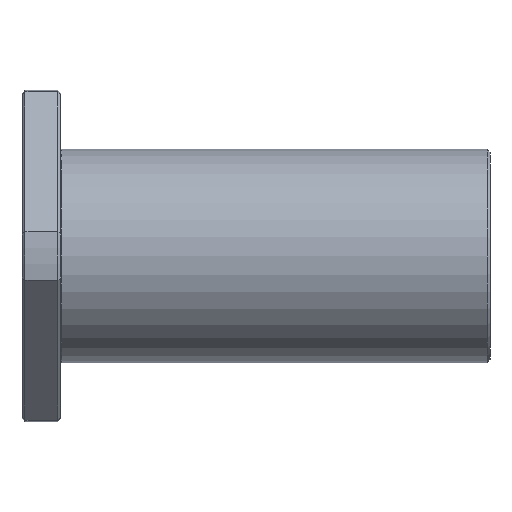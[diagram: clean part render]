
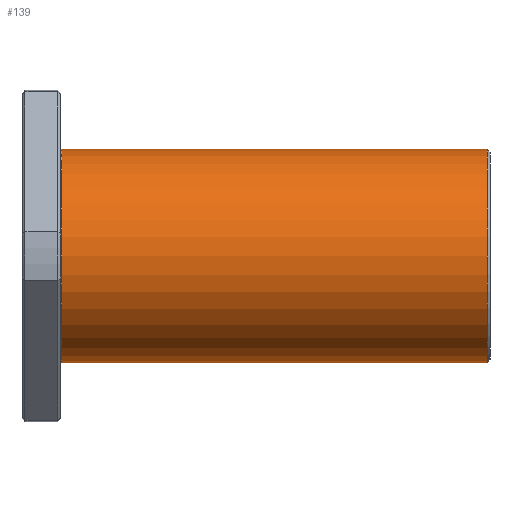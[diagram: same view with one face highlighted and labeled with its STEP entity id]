
A CAD part, front view. The second image highlights one B-rep face of the part: STEP entity #139.
In plain terms, the highlighted cylindrical face has radius 36 mm (diameter 72 mm), a full revolution.
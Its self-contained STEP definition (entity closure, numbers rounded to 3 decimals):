
#97=CARTESIAN_POINT('',(13.5,0.0,36.));
#98=VERTEX_POINT('',#97);
#99=CARTESIAN_POINT('',(13.5,0.0,0.0));
#100=DIRECTION('',(-1.0,0.0,0.0));
#101=DIRECTION('',(0.0,0.0,-1.0));
#102=AXIS2_PLACEMENT_3D('',#99,#100,#101);
#103=CIRCLE('',#102,36.);
#104=EDGE_CURVE('',#98,#98,#103,.T.);
#120=CARTESIAN_POINT('',(85.5,0.0,0.0));
#121=DIRECTION('',(-1.0,0.0,0.0));
#122=DIRECTION('',(0.0,0.0,1.0));
#123=AXIS2_PLACEMENT_3D('',#120,#121,#122);
#124=CYLINDRICAL_SURFACE('',#123,36.);
#125=CARTESIAN_POINT('',(157.0,0.,36.));
#126=VERTEX_POINT('',#125);
#127=CARTESIAN_POINT('',(157.0,0.0,0.0));
#128=DIRECTION('',(1.0,0.0,0.0));
#129=DIRECTION('',(0.0,0.0,-1.0));
#130=AXIS2_PLACEMENT_3D('',#127,#128,#129);
#131=CIRCLE('',#130,36.);
#132=EDGE_CURVE('',#126,#126,#131,.T.);
#133=ORIENTED_EDGE('',*,*,#132,.F.);
#134=EDGE_LOOP('',(#133));
#135=FACE_OUTER_BOUND('',#134,.T.);
#136=ORIENTED_EDGE('',*,*,#104,.F.);
#137=EDGE_LOOP('',(#136));
#138=FACE_BOUND('',#137,.T.);
#139=ADVANCED_FACE('',(#135,#138),#124,.T.);
